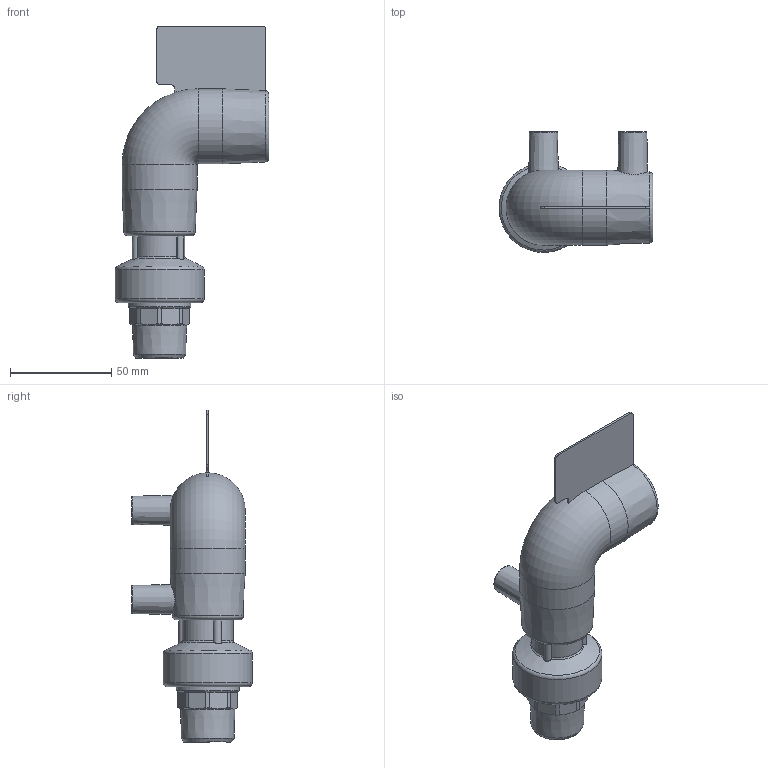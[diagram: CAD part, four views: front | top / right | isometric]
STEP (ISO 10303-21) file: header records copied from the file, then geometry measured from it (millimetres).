
FILE_DESCRIPTION(/* description */ ('Unknown'),/* implementation_level */ '2;1');
FILE_NAME(/* name */ 'GE9TMP025C.P',/* time_stamp */ '2021-11-10T16:34:51+01:00',/* author */ ('Unknown'),/* organization */ ('Unknown'),/* preprocessor_version */ 'ST-DEVELOPER v16.7',/* originating_system */ 'Solid Edge',/* authorisation */ 'Unknown');
FILE_SCHEMA (('AUTOMOTIVE_DESIGN {1 0 10303 214 3 1 1}'));
Length unit declared in the file: millimetre
Products named in the file (5): GE9TMP025C.P; GE9P025C.P; RTOMP025C; Parte PE 025; IOM025C
Assembly tree (4 placements, depth 3):
  GE9TMP025C.P
    GE9P025C.P
    RTOMP025C
      Parte PE 025
      IOM025C
Bounding box: 75.98 x 59.48 x 163.8 mm (x, y, z)
Volume: 107750.7 mm3; surface area: 49950.4 mm2
Topology: 3 solids, 3 shells, 484 faces, 1284 edges, 825 vertices
Faces by surface type: cylinder 193, plane 94, cone 90, bspline 63, torus 44
Full cylindrical faces by diameter (mm): 4 x2, 10 x2, 19 x1, 20 x1, 23.5 x2, 25 x3, 26.3 x2, 26.5 x2, 31 x1, 33 x2, 36 x4, 37 x1, 44 x1
Entity records: 18461 total; most frequent: CARTESIAN_POINT 6140, ORIENTED_EDGE 2428, DIRECTION 1906, EDGE_CURVE 1214, AXIS2_PLACEMENT_3D 856, VERTEX_POINT 806, B_SPLINE_CURVE_WITH_KNOTS 590, EDGE_LOOP 560
